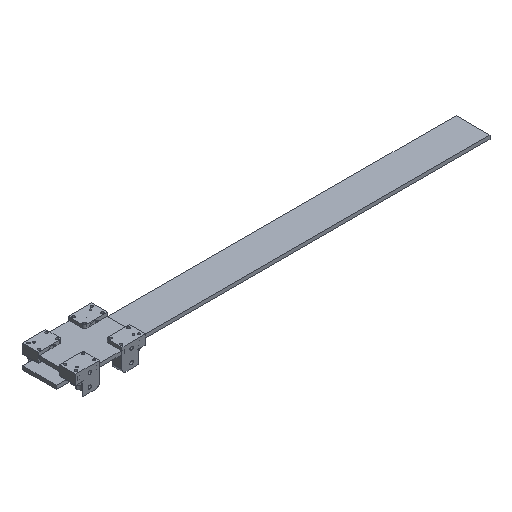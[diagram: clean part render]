
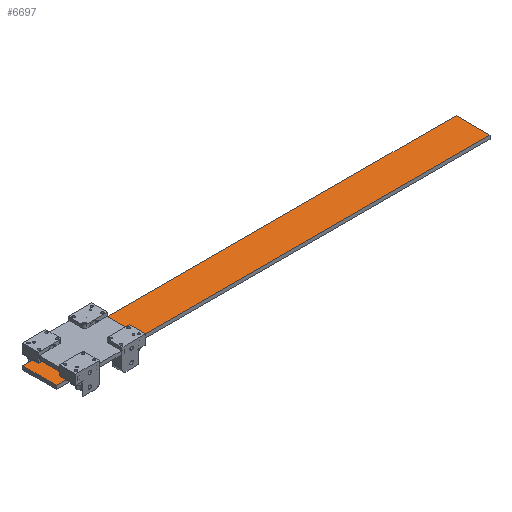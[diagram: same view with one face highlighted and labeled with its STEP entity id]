
A CAD part, isometric view. The second image highlights one B-rep face of the part: STEP entity #6697.
In plain terms, the highlighted planar face has unit normal (0, 0, 1).
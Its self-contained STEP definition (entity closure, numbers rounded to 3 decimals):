
#865=FACE_OUTER_BOUND('',#1241,.T.);
#1241=EDGE_LOOP('',(#4537,#4538,#4539,#4540));
#1745=LINE('',#9946,#2293);
#1749=LINE('',#9954,#2297);
#1752=LINE('',#9960,#2300);
#1755=LINE('',#9965,#2303);
#2293=VECTOR('',#7868,10.);
#2297=VECTOR('',#7874,10.);
#2300=VECTOR('',#7879,10.);
#2303=VECTOR('',#7884,10.);
#2841=VERTEX_POINT('',#9944);
#2842=VERTEX_POINT('',#9945);
#2845=VERTEX_POINT('',#9953);
#2847=VERTEX_POINT('',#9959);
#3513=EDGE_CURVE('',#2841,#2842,#1745,.T.);
#3517=EDGE_CURVE('',#2842,#2845,#1749,.T.);
#3520=EDGE_CURVE('',#2845,#2847,#1752,.T.);
#3523=EDGE_CURVE('',#2847,#2841,#1755,.T.);
#4537=ORIENTED_EDGE('',*,*,#3523,.T.);
#4538=ORIENTED_EDGE('',*,*,#3513,.T.);
#4539=ORIENTED_EDGE('',*,*,#3517,.T.);
#4540=ORIENTED_EDGE('',*,*,#3520,.T.);
#6541=PLANE('',#7104);
#6697=ADVANCED_FACE('',(#865),#6541,.T.);
#7104=AXIS2_PLACEMENT_3D('',#9967,#7886,#7887);
#7868=DIRECTION('',(1.,0.,0.));
#7874=DIRECTION('',(0.,1.,0.));
#7879=DIRECTION('',(-1.,0.,0.));
#7884=DIRECTION('',(0.,-1.,0.));
#7886=DIRECTION('center_axis',(0.,0.,1.));
#7887=DIRECTION('ref_axis',(1.,0.,0.));
#9944=CARTESIAN_POINT('',(0.,0.,0.));
#9945=CARTESIAN_POINT('',(766.,0.,0.));
#9946=CARTESIAN_POINT('',(0.,0.,0.));
#9953=CARTESIAN_POINT('',(766.,60.,0.));
#9954=CARTESIAN_POINT('',(766.,0.,0.));
#9959=CARTESIAN_POINT('',(0.,60.,0.));
#9960=CARTESIAN_POINT('',(766.,60.,0.));
#9965=CARTESIAN_POINT('',(0.,60.,0.));
#9967=CARTESIAN_POINT('Origin',(383.,30.,0.));
